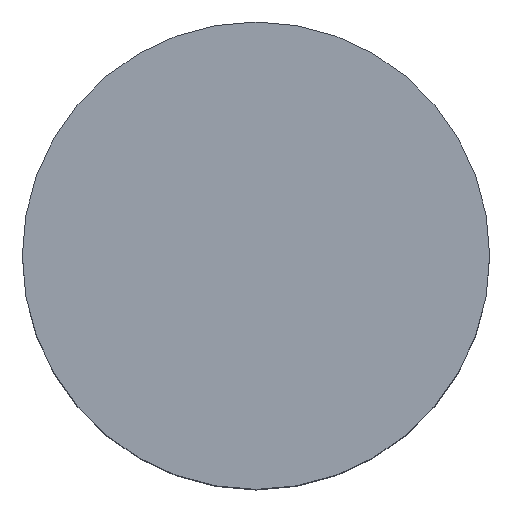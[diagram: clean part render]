
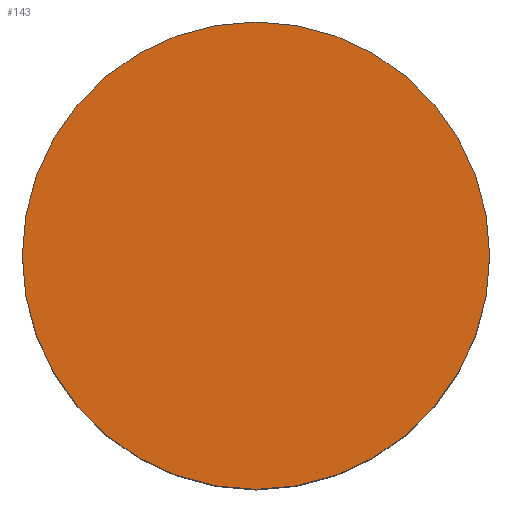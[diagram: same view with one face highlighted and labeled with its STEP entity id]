
A CAD part, top view. The second image highlights one B-rep face of the part: STEP entity #143.
In plain terms, the highlighted planar face has unit normal (0, 0, 1).
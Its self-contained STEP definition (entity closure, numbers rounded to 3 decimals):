
#43 = CIRCLE ( 'NONE', #703, 25. ) ;
#54 = PLANE ( 'NONE',  #890 ) ;
#143 = ADVANCED_FACE ( 'NONE', ( #781 ), #54, .F. ) ;
#245 = CARTESIAN_POINT ( 'NONE',  ( -25., 0., 10. ) ) ;
#351 = CARTESIAN_POINT ( 'NONE',  ( 0., 0., 10. ) ) ;
#356 = DIRECTION ( 'NONE',  ( 1., 0., 0. ) ) ;
#381 = EDGE_CURVE ( 'NONE', #793, #527, #43, .T. ) ;
#470 = EDGE_LOOP ( 'NONE', ( #947, #642 ) ) ;
#480 = DIRECTION ( 'NONE',  ( 0., 0., 1. ) ) ;
#493 = DIRECTION ( 'NONE',  ( 1., 0., 0. ) ) ;
#527 = VERTEX_POINT ( 'NONE', #572 ) ;
#535 = DIRECTION ( 'NONE',  ( 0., 0., 1. ) ) ;
#541 = EDGE_CURVE ( 'NONE', #527, #793, #732, .T. ) ;
#542 = CARTESIAN_POINT ( 'NONE',  ( 0., 0., 10. ) ) ;
#549 = DIRECTION ( 'NONE',  ( -1., 0., 0. ) ) ;
#572 = CARTESIAN_POINT ( 'NONE',  ( -25., 0., 10. ) ) ;
#618 = DIRECTION ( 'NONE',  ( 0., 0., -1. ) ) ;
#638 = AXIS2_PLACEMENT_3D ( 'NONE', #542, #535, #493 ) ;
#642 = ORIENTED_EDGE ( 'NONE', *, *, #541, .T. ) ;
#703 = AXIS2_PLACEMENT_3D ( 'NONE', #351, #480, #356 ) ;
#732 = CIRCLE ( 'NONE', #638, 25. ) ;
#781 = FACE_OUTER_BOUND ( 'NONE', #470, .T. ) ;
#793 = VERTEX_POINT ( 'NONE', #835 ) ;
#835 = CARTESIAN_POINT ( 'NONE',  ( 25., 0., 10. ) ) ;
#890 = AXIS2_PLACEMENT_3D ( 'NONE', #245, #618, #549 ) ;
#947 = ORIENTED_EDGE ( 'NONE', *, *, #381, .T. ) ;
